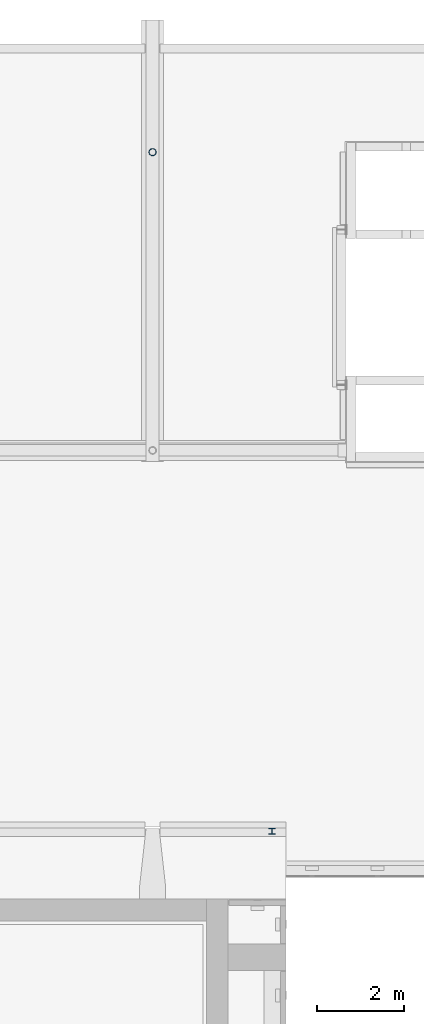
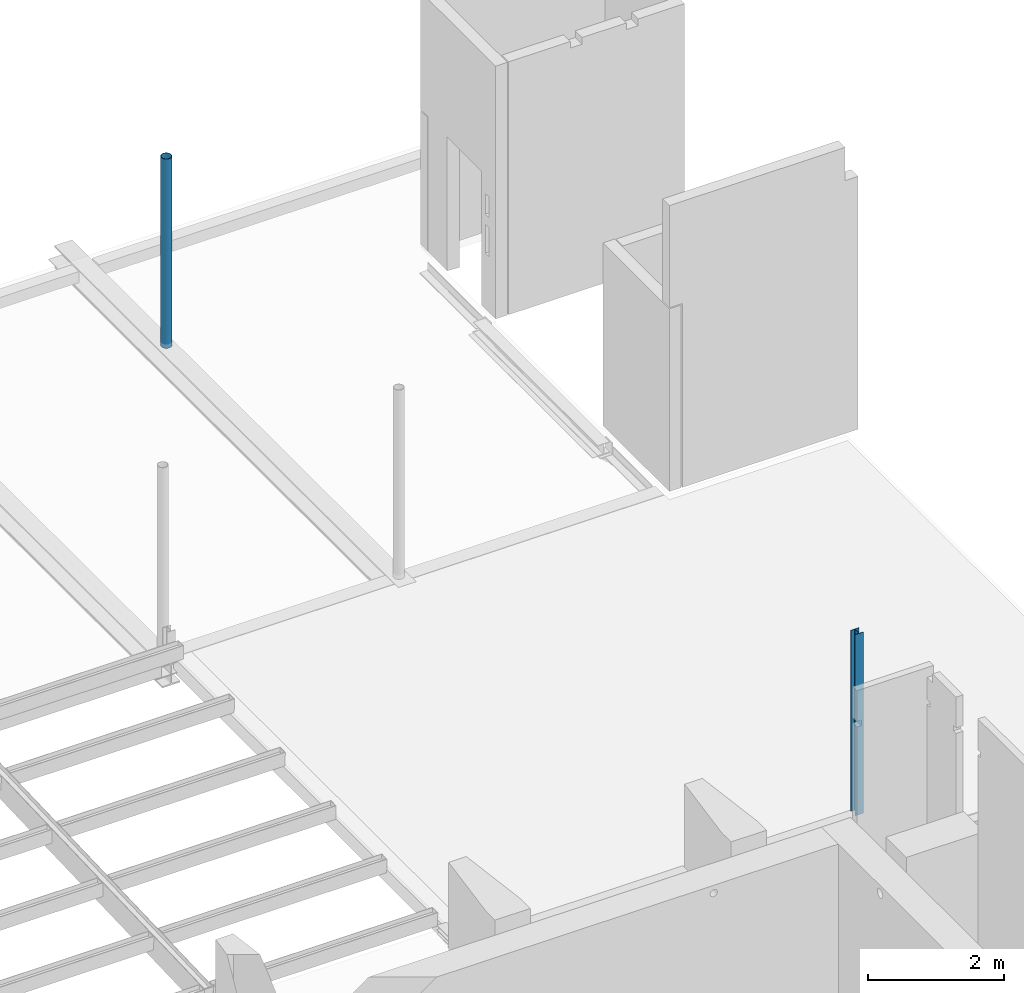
# One storey, part 7 of 31: 2 columns.
"""IFC2X3 building model written with IfcOpenShell, lengths in millimetres."""

from ifc_helpers import new_model, entity, si_unit, converted_unit, derived_unit, direction, frame, frame_2d, origin, place, context, subcontext, project, spatial, polyline, circle_curve, parameter, trimmed, segment, composite_curve, hollow_circle, outline, extrude, source, transform, mapped, material, type_object, type_shapes, element, save


model = new_model("IFC2X3")

# Units and contexts
model_context = context("Model", 3, precision=0.01, world=origin(), true_north=direction((6.12303176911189e-17, 1.0)))
body_context = subcontext(model_context, "Body", "Model", "MODEL_VIEW")
ifc_project = project(units=[si_unit("LENGTHUNIT", "METRE", prefix="MILLI"), si_unit("AREAUNIT", "SQUARE_METRE"), si_unit("VOLUMEUNIT", "CUBIC_METRE"), converted_unit("PLANEANGLEUNIT", "DEGREE", entity("IfcRatioMeasure", 0.0174532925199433), si_unit("PLANEANGLEUNIT", "RADIAN"), dimensions=[0, 0, 0, 0, 0, 0, 0]), si_unit("MASSUNIT", "GRAM", prefix="KILO"), derived_unit("MASSDENSITYUNIT", [(si_unit("MASSUNIT", "GRAM", prefix="KILO"), 1), (si_unit("LENGTHUNIT", "METRE"), -3)]), si_unit("TIMEUNIT", "SECOND"), si_unit("FREQUENCYUNIT", "HERTZ"), si_unit("THERMODYNAMICTEMPERATUREUNIT", "DEGREE_CELSIUS"), derived_unit("THERMALTRANSMITTANCEUNIT", [(si_unit("MASSUNIT", "GRAM", prefix="KILO"), 1), (si_unit("THERMODYNAMICTEMPERATUREUNIT", "KELVIN"), -1), (si_unit("TIMEUNIT", "SECOND"), -3)]), derived_unit("VOLUMETRICFLOWRATEUNIT", [(si_unit("LENGTHUNIT", "METRE"), 3), (si_unit("TIMEUNIT", "SECOND"), -1)]), si_unit("ELECTRICCURRENTUNIT", "AMPERE"), si_unit("ELECTRICVOLTAGEUNIT", "VOLT"), si_unit("POWERUNIT", "WATT"), si_unit("FORCEUNIT", "NEWTON", prefix="KILO"), si_unit("ILLUMINANCEUNIT", "LUX"), si_unit("LUMINOUSFLUXUNIT", "LUMEN"), si_unit("LUMINOUSINTENSITYUNIT", "CANDELA"), derived_unit("USERDEFINED", [(si_unit("MASSUNIT", "GRAM", prefix="KILO"), -1), (si_unit("LENGTHUNIT", "METRE"), -2), (si_unit("TIMEUNIT", "SECOND"), 3), (si_unit("LUMINOUSFLUXUNIT", "LUMEN"), 1)]), derived_unit("LINEARVELOCITYUNIT", [(si_unit("LENGTHUNIT", "METRE"), 1), (si_unit("TIMEUNIT", "SECOND"), -1)]), si_unit("PRESSUREUNIT", "PASCAL"), derived_unit("USERDEFINED", [(si_unit("LENGTHUNIT", "METRE"), -2), (si_unit("MASSUNIT", "GRAM", prefix="KILO"), 1), (si_unit("TIMEUNIT", "SECOND"), -2)])], contexts=[model_context])

# Site, building, storey
site_placement = place(None, origin())
site = spatial("IfcSite", under=ifc_project, at=site_placement, Name="Default", CompositionType="ELEMENT")
building_placement = place(site_placement, origin())
building = spatial("IfcBuilding", under=site, at=building_placement, Name="niet gebruiken", CompositionType="ELEMENT")
storey_placement = place(building_placement, frame((0.0, 0.0, 12000.0)))
storey = spatial("IfcBuildingStorey", under=building, at=storey_placement, Name="03 derde verdieping", CompositionType="ELEMENT", Elevation=12000.0)

# Columns
ifc_material = material(Name="NLRS_h2_staal")
column_type_1 = type_object("IfcColumnType", Name="kolom buisprofiel rond CHS_168.3x8", PredefinedType="COLUMN", material=ifc_material)
shared_shape_1 = source(origin(), body_context, "Body", "SweptSolid", [
    extrude(hollow_circle(Radius=84.15, WallThickness=8.0, at=frame_2d((-7.74492256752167e-19, -1.35948075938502e-13), x_axis=(1.0, 0.0))), frame((0.0, 0.0, 13340.0)), (0.0, 0.0, 1.0), 3389.99999999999),
])
type_shapes(column_type_1, [shared_shape_1])
column_1_placement = place(storey_placement, frame((155750.0, 50325.0, -12000.0)))
element("IfcColumn", 1, at=column_1_placement, inside=storey, type_object=column_type_1, material=ifc_material, Name="NLRS_28.11_SCO_TLB_stalen kolom buisprofiel rond_gen:kolom buisprofiel rond CHS_168.3x8", ObjectType="kolom buisprofiel rond CHS_168.3x8", context=body_context, shape_type="MappedRepresentation", body=[
    mapped(shared_shape_1, transform((0.0, 0.0, 0.0), scale=1.0)),
])
column_type_2 = type_object("IfcColumnType", Name="kolom HEA 140", PredefinedType="COLUMN", material=ifc_material)
shared_shape_2 = source(origin(), body_context, "Body", "SweptSolid", [
    extrude(outline(composite_curve([segment(polyline([(58.0, -70.0), (66.4999999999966, -70.0)]), True, "CONTINUOUS"), segment(polyline([(66.4999999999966, -70.0), (66.4999999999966, 70.0)]), True, "CONTINUOUS"), segment(polyline([(66.4999999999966, 70.0), (58.0, 70.0)]), True, "CONTINUOUS"), segment(polyline([(58.0, 70.0), (58.0, 14.7499999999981)]), True, "CONTINUOUS"), segment(trimmed(circle_curve(frame_2d((46.0, 14.7499999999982), x_axis=(1.0, 0.0)), 12.0), [parameter(270.0)], [parameter(0.0)], True, "PARAMETER"), False, "CONTINUOUS"), segment(polyline([(46.0, 2.74999999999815), (-46.0, 2.74999999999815)]), True, "CONTINUOUS"), segment(trimmed(circle_curve(frame_2d((-46.0, 14.7499999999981), x_axis=(0.0, -1.0)), 12.0), [parameter(270.0)], [parameter(0.0)], True, "PARAMETER"), False, "CONTINUOUS"), segment(polyline([(-58.0, 14.7499999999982), (-58.0, 70.0)]), True, "CONTINUOUS"), segment(polyline([(-58.0, 70.0), (-66.4999999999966, 70.0)]), True, "CONTINUOUS"), segment(polyline([(-66.4999999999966, 70.0), (-66.4999999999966, -70.0)]), True, "CONTINUOUS"), segment(polyline([(-66.4999999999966, -70.0), (-58.0, -70.0)]), True, "CONTINUOUS"), segment(polyline([(-58.0, -70.0), (-58.0, -14.7500000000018)]), True, "CONTINUOUS"), segment(trimmed(circle_curve(frame_2d((-46.0, -14.7500000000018), x_axis=(-1.0, 0.0)), 12.0), [parameter(270.0)], [parameter(0.0)], True, "PARAMETER"), False, "CONTINUOUS"), segment(polyline([(-46.0, -2.75000000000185), (46.0, -2.75000000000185)]), True, "CONTINUOUS"), segment(trimmed(circle_curve(frame_2d((46.0, -14.7500000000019), x_axis=(0.0, 1.0)), 12.0), [parameter(270.0)], [parameter(0.0)], True, "PARAMETER"), False, "CONTINUOUS"), segment(polyline([(58.0, -14.7500000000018), (58.0, -70.0)]), True, "CONTINUOUS")], self_intersect=False)), frame((0.0, 0.0, 13440.0), z_axis=(0.0, 0.0, 1.0), x_axis=(0.0, -1.0, 0.0)), (0.0, 0.0, 1.0), 3244.99999999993),
])
type_shapes(column_type_2, [shared_shape_2])
column_2_placement = place(storey_placement, frame((158482.5, 34783.500000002, -12000.0), z_axis=(0.0, 0.0, 1.0), x_axis=(-1.0, 0.0, 0.0)))
element("IfcColumn", 2, at=column_2_placement, inside=storey, type_object=column_type_2, material=ifc_material, Name="NLRS_28.11_SCO_TLB_stalen kolom HEA_gen:kolom HEA 140", ObjectType="kolom HEA 140", context=body_context, shape_type="MappedRepresentation", body=[
    mapped(shared_shape_2, transform((0.0, 0.0, 0.0), scale=1.0)),
])

save(model, "model.ifc")
